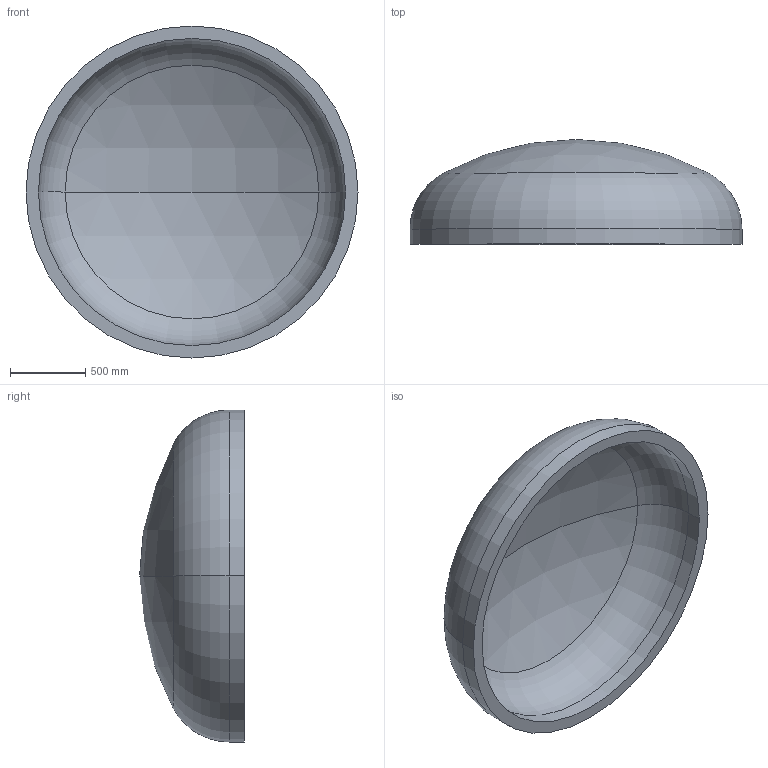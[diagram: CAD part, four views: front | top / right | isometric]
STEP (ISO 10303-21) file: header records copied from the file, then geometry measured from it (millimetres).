
FILE_DESCRIPTION (( 'STEP AP203' ), '1' );
FILE_NAME ('DIN 28013 Korbbogenform_-_Boden DIN 28013 - 2200 x 100 - I - s=82.step', '2016-07-01T14:49:18', ( '' ), ( '' ), 'SwSTEP 2.0', 'SolidWorks 2013', '' );
FILE_SCHEMA (( 'CONFIG_CONTROL_DESIGN' ));
Length unit declared in the file: millimetre
Products named in the file (1): DIN 28013 Korbbogenform_-_Boden DIN 28013 - 2200 x 100 - I - s=82
Bounding box: 2200 x 694.32 x 2200 mm (x, y, z)
Volume: 466170450 mm3; surface area: 11929709.5 mm2
Topology: 1 solids, 1 shells, 13 faces, 24 edges, 14 vertices
Faces by surface type: torus 4, cylinder 4, sphere 4, plane 1
Entity records: 407 total; most frequent: DIRECTION 72, CARTESIAN_POINT 52, ORIENTED_EDGE 48, AXIS2_PLACEMENT_3D 34, EDGE_CURVE 24, CIRCLE 20, VERTEX_POINT 14, EDGE_LOOP 14
